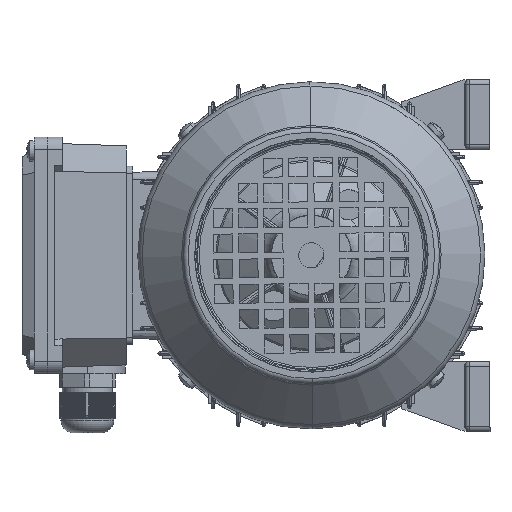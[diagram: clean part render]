
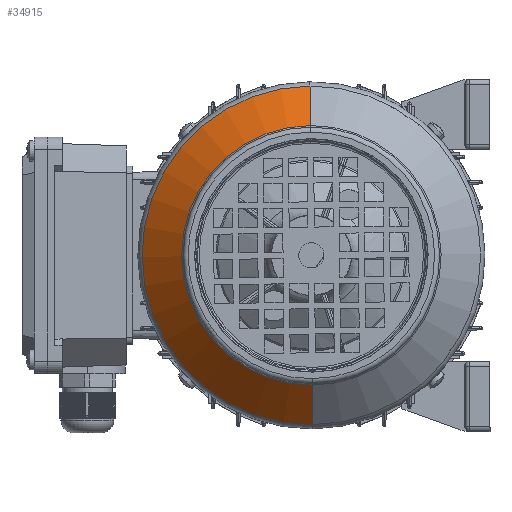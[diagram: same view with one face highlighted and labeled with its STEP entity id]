
A CAD part, left-side view. The second image highlights one B-rep face of the part: STEP entity #34915.
In plain terms, the highlighted conical face has half-angle 45 degrees and reference radius 51.586 mm.
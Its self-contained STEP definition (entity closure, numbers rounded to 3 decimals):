
#34847 = VERTEX_POINT ( 'NONE', #123302 ) ;
#34852 = VERTEX_POINT ( 'NONE', #123301 ) ;
#34871 = EDGE_LOOP ( 'NONE', ( #34921, #34929, #34937, #34944 ) ) ;
#34915 = ADVANCED_FACE ( 'NONE', ( #123356 ), #123355, .T. ) ;
#34921 = ORIENTED_EDGE ( 'NONE', *, *, #34924, .T. ) ;
#34924 = EDGE_CURVE ( 'NONE', #34852, #34847, #123412, .T. ) ;
#34929 = ORIENTED_EDGE ( 'NONE', *, *, #34931, .T. ) ;
#34931 = EDGE_CURVE ( 'NONE', #34847, #34932, #123407, .T. ) ;
#34932 = VERTEX_POINT ( 'NONE', #123403 ) ;
#34937 = ORIENTED_EDGE ( 'NONE', *, *, #34939, .F. ) ;
#34939 = EDGE_CURVE ( 'NONE', #34941, #34932, #123402, .T. ) ;
#34941 = VERTEX_POINT ( 'NONE', #123396 ) ;
#34944 = ORIENTED_EDGE ( 'NONE', *, *, #34949, .F. ) ;
#34949 = EDGE_CURVE ( 'NONE', #34852, #34941, #123386, .T. ) ;
#123301 = CARTESIAN_POINT ( 'NONE',  ( 69.414, 0., 51.586 ) ) ;
#123302 = CARTESIAN_POINT ( 'NONE',  ( 69.414, 0., -51.586 ) ) ;
#123348 = DIRECTION ( 'NONE',  ( 0., 0., 1. ) ) ;
#123349 = DIRECTION ( 'NONE',  ( -1., 0., 0. ) ) ;
#123350 = CARTESIAN_POINT ( 'NONE',  ( 69.414, 0., 0. ) ) ;
#123351 = AXIS2_PLACEMENT_3D ( 'NONE', #123350, #123349, #123348 ) ;
#123355 = CONICAL_SURFACE ( 'NONE', #123351, 51.586, 0.785 ) ;
#123356 = FACE_OUTER_BOUND ( 'NONE', #34871, .T. ) ;
#123383 = DIRECTION ( 'NONE',  ( -0.707, 0., 0.707 ) ) ;
#123384 = VECTOR ( 'NONE', #123383, 1000. ) ;
#123385 = CARTESIAN_POINT ( 'NONE',  ( 69.414, 0., 51.586 ) ) ;
#123386 = LINE ( 'NONE', #123385, #123384 ) ;
#123396 = CARTESIAN_POINT ( 'NONE',  ( 53.713, 0., 67.287 ) ) ;
#123397 = DIRECTION ( 'NONE',  ( 0., 0., 1. ) ) ;
#123398 = DIRECTION ( 'NONE',  ( -1., 0., 0. ) ) ;
#123399 = CARTESIAN_POINT ( 'NONE',  ( 53.713, 0., 0. ) ) ;
#123400 = AXIS2_PLACEMENT_3D ( 'NONE', #123399, #123398, #123397 ) ;
#123402 = CIRCLE ( 'NONE', #123400, 67.287 ) ;
#123403 = CARTESIAN_POINT ( 'NONE',  ( 53.713, 0., -67.287 ) ) ;
#123404 = DIRECTION ( 'NONE',  ( -0.707, 0., -0.707 ) ) ;
#123405 = VECTOR ( 'NONE', #123404, 1000. ) ;
#123406 = CARTESIAN_POINT ( 'NONE',  ( 69.414, 0., -51.586 ) ) ;
#123407 = LINE ( 'NONE', #123406, #123405 ) ;
#123408 = DIRECTION ( 'NONE',  ( 0., 0., 1. ) ) ;
#123409 = DIRECTION ( 'NONE',  ( -1., 0., 0. ) ) ;
#123410 = CARTESIAN_POINT ( 'NONE',  ( 69.414, 0., 0. ) ) ;
#123411 = AXIS2_PLACEMENT_3D ( 'NONE', #123410, #123409, #123408 ) ;
#123412 = CIRCLE ( 'NONE', #123411, 51.586 ) ;
